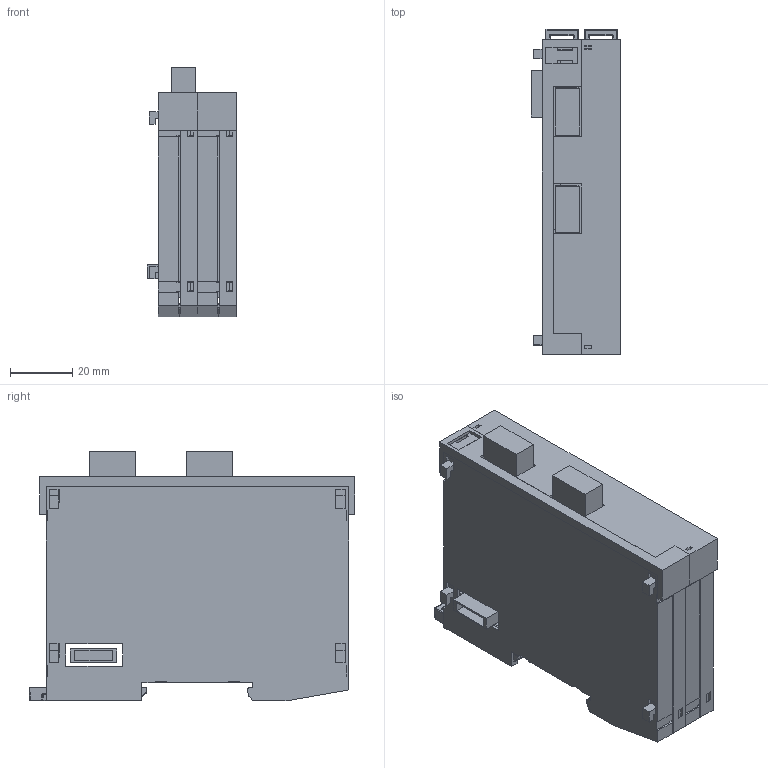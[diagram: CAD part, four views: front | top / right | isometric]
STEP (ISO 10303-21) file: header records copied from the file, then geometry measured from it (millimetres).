
FILE_DESCRIPTION (( 'STEP AP214' ), '1' );
FILE_NAME ('SRO021.STEP', '2016-01-21T06:47:48', ( 'SIGMATEK GmbH & Co KG' ), ( 'SIGMATEK GmbH & Co KG' ), 'SwSTEP 2.0', 'SolidWorks 2015', '' );
FILE_SCHEMA (( 'AUTOMOTIVE_DESIGN' ));
Length unit declared in the file: millimetre
Products named in the file (12): S-Dias Doppelmodul Abdeckung Relais Support_SRO 021; Schieber_f Suport; S-Dias Schale rechts_f Suport; S-Dias Schale links_f Suport; SRO021; LP_SRO021; Dummy_4110262104 4pol.Federkraftstecker f.2reih 1952283; Dummy_4110251205 4pol.Minicombicon-Grundgehäuse RM3,5 1937512; Dummy_4080225346 Erni Stift; Dummy_4080225345 Erni Buchse; S-Dias Rasthaken 20130313; S-Dias Zwischenstück Doppelmodul
Assembly tree (14 placements, depth 3):
  SRO021
    S-Dias Schale links_f Suport
    S-Dias Schale rechts_f Suport
    Schieber_f Suport
    S-Dias Doppelmodul Abdeckung Relais Support_SRO 021
    S-Dias Zwischenstück Doppelmodul
    S-Dias Rasthaken 20130313  x2
    LP_SRO021
      Dummy_4080225345 Erni Buchse
      Dummy_4080225346 Erni Stift
      Dummy_4110251205 4pol.Minicombicon-Grundgehäuse RM3,5 1937512  x2
      Dummy_4110262104 4pol.Federkraftstecker f.2reih 1952283  x2
Bounding box: 28.8 x 104.19 x 79.98 mm (x, y, z)
Volume: 37662.3 mm3; surface area: 56963.2 mm2
Topology: 14 solids, 14 shells, 1384 faces, 4082 edges, 2704 vertices
Faces by surface type: plane 922, cylinder 242, bspline 110, cone 54, torus 30, sphere 26
Entity records: 44899 total; most frequent: CARTESIAN_POINT 9272, ORIENTED_EDGE 6474, DIRECTION 5252, EDGE_CURVE 3237, VECTOR 2496, LINE 2496, VERTEX_POINT 2139, AXIS2_PLACEMENT_3D 1378
